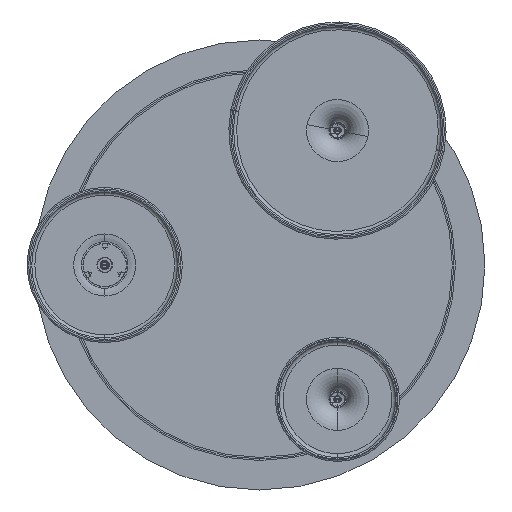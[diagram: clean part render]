
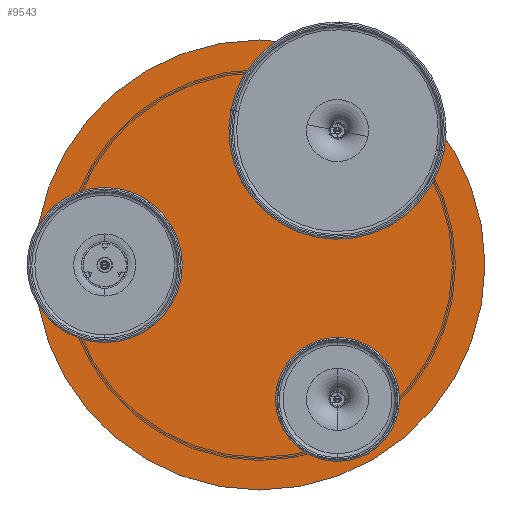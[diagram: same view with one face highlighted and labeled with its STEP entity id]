
A CAD part, front view. The second image highlights one B-rep face of the part: STEP entity #9543.
In plain terms, the highlighted planar face has unit normal (0, -1, 0).
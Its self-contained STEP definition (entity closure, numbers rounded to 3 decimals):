
#121 = CARTESIAN_POINT ( 'NONE',  ( 0., -1., 0. ) ) ;
#237 = EDGE_CURVE ( 'NONE', #617, #12573, #11047, .T. ) ;
#363 = EDGE_CURVE ( 'NONE', #12124, #2506, #7280, .T. ) ;
#413 = AXIS2_PLACEMENT_3D ( 'NONE', #567, #2937, #5152 ) ;
#567 = CARTESIAN_POINT ( 'NONE',  ( -50., -1., -86.603 ) ) ;
#587 = VERTEX_POINT ( 'NONE', #8285 ) ;
#608 = EDGE_CURVE ( 'NONE', #13075, #8973, #7631, .T. ) ;
#617 = VERTEX_POINT ( 'NONE', #6063 ) ;
#661 = CARTESIAN_POINT ( 'NONE',  ( 96.967, -1., 4.1 ) ) ;
#841 = ORIENTED_EDGE ( 'NONE', *, *, #4333, .F. ) ;
#1077 = DIRECTION ( 'NONE',  ( 0., 0., 1. ) ) ;
#1179 = CARTESIAN_POINT ( 'NONE',  ( -44.933, -1., 86.026 ) ) ;
#1218 = FACE_OUTER_BOUND ( 'NONE', #10899, .T. ) ;
#1371 = CIRCLE ( 'NONE', #5941, 145. ) ;
#1558 = DIRECTION ( 'NONE',  ( 0., 0., 1. ) ) ;
#1621 = CARTESIAN_POINT ( 'NONE',  ( -52.034, -1., 81.926 ) ) ;
#1914 = ORIENTED_EDGE ( 'NONE', *, *, #237, .F. ) ;
#1994 = CIRCLE ( 'NONE', #7678, 5.1 ) ;
#2210 = DIRECTION ( 'NONE',  ( 1., 0., 0. ) ) ;
#2230 = CARTESIAN_POINT ( 'NONE',  ( 0., -1., -145. ) ) ;
#2506 = VERTEX_POINT ( 'NONE', #661 ) ;
#2542 = ORIENTED_EDGE ( 'NONE', *, *, #6553, .F. ) ;
#2845 = ORIENTED_EDGE ( 'NONE', *, *, #3355, .F. ) ;
#2937 = DIRECTION ( 'NONE',  ( 0., -1., 0. ) ) ;
#3064 = CARTESIAN_POINT ( 'NONE',  ( -47.966, -1., 91.279 ) ) ;
#3117 = EDGE_CURVE ( 'NONE', #2506, #12169, #1994, .T. ) ;
#3149 = CARTESIAN_POINT ( 'NONE',  ( 0., -1., 0. ) ) ;
#3151 = CIRCLE ( 'NONE', #11368, 5.1 ) ;
#3237 = DIRECTION ( 'NONE',  ( 0.5, 0., 0.866 ) ) ;
#3329 = LINE ( 'NONE', #1179, #3989 ) ;
#3355 = EDGE_CURVE ( 'NONE', #11907, #7108, #13167, .T. ) ;
#3890 = AXIS2_PLACEMENT_3D ( 'NONE', #5706, #6852, #12445 ) ;
#3926 = CARTESIAN_POINT ( 'NONE',  ( 0., -1., 145. ) ) ;
#3931 = EDGE_CURVE ( 'NONE', #8250, #3950, #7960, .T. ) ;
#3950 = VERTEX_POINT ( 'NONE', #4008 ) ;
#3989 = VECTOR ( 'NONE', #7759, 1000. ) ;
#4008 = CARTESIAN_POINT ( 'NONE',  ( -52.034, -1., -81.926 ) ) ;
#4108 = ORIENTED_EDGE ( 'NONE', *, *, #4523, .F. ) ;
#4324 = EDGE_CURVE ( 'NONE', #4827, #13075, #8201, .T. ) ;
#4333 = EDGE_CURVE ( 'NONE', #3950, #617, #12487, .T. ) ;
#4334 = CIRCLE ( 'NONE', #3890, 5.1 ) ;
#4493 = LINE ( 'NONE', #12081, #8243 ) ;
#4503 = FACE_BOUND ( 'NONE', #13294, .T. ) ;
#4523 = EDGE_CURVE ( 'NONE', #587, #12124, #3151, .T. ) ;
#4549 = ORIENTED_EDGE ( 'NONE', *, *, #608, .F. ) ;
#4827 = VERTEX_POINT ( 'NONE', #8853 ) ;
#5152 = DIRECTION ( 'NONE',  ( -0.866, 0., 0.5 ) ) ;
#5305 = DIRECTION ( 'NONE',  ( 0., -1., 0. ) ) ;
#5383 = CARTESIAN_POINT ( 'NONE',  ( -50., -1., -86.603 ) ) ;
#5558 = VECTOR ( 'NONE', #9585, 1000. ) ;
#5569 = AXIS2_PLACEMENT_3D ( 'NONE', #11565, #5992, #8212 ) ;
#5577 = DIRECTION ( 'NONE',  ( 0., 1., 0. ) ) ;
#5644 = FACE_BOUND ( 'NONE', #11571, .T. ) ;
#5706 = CARTESIAN_POINT ( 'NONE',  ( -50., -1., 86.603 ) ) ;
#5887 = CARTESIAN_POINT ( 'NONE',  ( -47.966, -1., -91.279 ) ) ;
#5941 = AXIS2_PLACEMENT_3D ( 'NONE', #3149, #13155, #10869 ) ;
#5992 = DIRECTION ( 'NONE',  ( 0., -1., 0. ) ) ;
#6063 = CARTESIAN_POINT ( 'NONE',  ( -55.067, -1., -87.179 ) ) ;
#6332 = ORIENTED_EDGE ( 'NONE', *, *, #3931, .F. ) ;
#6437 = EDGE_CURVE ( 'NONE', #7108, #11907, #1371, .T. ) ;
#6496 = EDGE_CURVE ( 'NONE', #12169, #587, #4493, .T. ) ;
#6553 = EDGE_CURVE ( 'NONE', #8521, #4827, #4334, .T. ) ;
#6852 = DIRECTION ( 'NONE',  ( 0., -1., 0. ) ) ;
#7108 = VERTEX_POINT ( 'NONE', #3926 ) ;
#7280 = LINE ( 'NONE', #7351, #5558 ) ;
#7351 = CARTESIAN_POINT ( 'NONE',  ( 96.967, -1., 4.1 ) ) ;
#7574 = CARTESIAN_POINT ( 'NONE',  ( 103.033, -1., 4.1 ) ) ;
#7631 = CIRCLE ( 'NONE', #5569, 5.1 ) ;
#7678 = AXIS2_PLACEMENT_3D ( 'NONE', #10725, #9724, #11938 ) ;
#7691 = EDGE_CURVE ( 'NONE', #12573, #8250, #13039, .T. ) ;
#7759 = DIRECTION ( 'NONE',  ( -0.5, 0., 0.866 ) ) ;
#7960 = CIRCLE ( 'NONE', #413, 5.1 ) ;
#8160 = ORIENTED_EDGE ( 'NONE', *, *, #6496, .F. ) ;
#8201 = LINE ( 'NONE', #1621, #10239 ) ;
#8212 = DIRECTION ( 'NONE',  ( 0.866, 0., 0.5 ) ) ;
#8243 = VECTOR ( 'NONE', #2210, 1000. ) ;
#8250 = VERTEX_POINT ( 'NONE', #8488 ) ;
#8285 = CARTESIAN_POINT ( 'NONE',  ( 103.033, -1., -4.1 ) ) ;
#8386 = AXIS2_PLACEMENT_3D ( 'NONE', #121, #11355, #1558 ) ;
#8488 = CARTESIAN_POINT ( 'NONE',  ( -44.933, -1., -86.026 ) ) ;
#8521 = VERTEX_POINT ( 'NONE', #3064 ) ;
#8853 = CARTESIAN_POINT ( 'NONE',  ( -55.067, -1., 87.179 ) ) ;
#8874 = CARTESIAN_POINT ( 'NONE',  ( 0., -1., 0. ) ) ;
#8973 = VERTEX_POINT ( 'NONE', #14127 ) ;
#9319 = ORIENTED_EDGE ( 'NONE', *, *, #11480, .F. ) ;
#9543 = ADVANCED_FACE ( 'NONE', ( #5644, #4503, #13166, #1218 ), #12018, .F. ) ;
#9553 = VECTOR ( 'NONE', #10174, 1000. ) ;
#9585 = DIRECTION ( 'NONE',  ( -1., 0., 0. ) ) ;
#9677 = DIRECTION ( 'NONE',  ( 0., 0., -1. ) ) ;
#9724 = DIRECTION ( 'NONE',  ( 0., -1., 0. ) ) ;
#9797 = ORIENTED_EDGE ( 'NONE', *, *, #6437, .F. ) ;
#9921 = ORIENTED_EDGE ( 'NONE', *, *, #4324, .F. ) ;
#10174 = DIRECTION ( 'NONE',  ( -0.5, 0., -0.866 ) ) ;
#10239 = VECTOR ( 'NONE', #10477, 1000. ) ;
#10477 = DIRECTION ( 'NONE',  ( 0.5, 0., -0.866 ) ) ;
#10725 = CARTESIAN_POINT ( 'NONE',  ( 100., -1., 0. ) ) ;
#10823 = ORIENTED_EDGE ( 'NONE', *, *, #363, .F. ) ;
#10869 = DIRECTION ( 'NONE',  ( 0., 0., 1. ) ) ;
#10899 = EDGE_LOOP ( 'NONE', ( #9797, #2845 ) ) ;
#11047 = CIRCLE ( 'NONE', #13340, 5.1 ) ;
#11355 = DIRECTION ( 'NONE',  ( 0., 1., 0. ) ) ;
#11368 = AXIS2_PLACEMENT_3D ( 'NONE', #13035, #5305, #9677 ) ;
#11447 = ORIENTED_EDGE ( 'NONE', *, *, #7691, .F. ) ;
#11480 = EDGE_CURVE ( 'NONE', #8973, #8521, #3329, .T. ) ;
#11560 = CARTESIAN_POINT ( 'NONE',  ( -52.034, -1., -81.926 ) ) ;
#11565 = CARTESIAN_POINT ( 'NONE',  ( -50., -1., 86.603 ) ) ;
#11571 = EDGE_LOOP ( 'NONE', ( #11447, #1914, #841, #6332 ) ) ;
#11621 = DIRECTION ( 'NONE',  ( -0.866, 0., 0.5 ) ) ;
#11680 = ORIENTED_EDGE ( 'NONE', *, *, #3117, .F. ) ;
#11797 = EDGE_LOOP ( 'NONE', ( #10823, #4108, #8160, #11680 ) ) ;
#11907 = VERTEX_POINT ( 'NONE', #2230 ) ;
#11929 = AXIS2_PLACEMENT_3D ( 'NONE', #8874, #5577, #1077 ) ;
#11938 = DIRECTION ( 'NONE',  ( 0., 0., -1. ) ) ;
#12018 = PLANE ( 'NONE',  #11929 ) ;
#12081 = CARTESIAN_POINT ( 'NONE',  ( 96.967, -1., -4.1 ) ) ;
#12124 = VERTEX_POINT ( 'NONE', #7574 ) ;
#12169 = VERTEX_POINT ( 'NONE', #13018 ) ;
#12370 = VECTOR ( 'NONE', #3237, 1000. ) ;
#12445 = DIRECTION ( 'NONE',  ( 0.866, 0., 0.5 ) ) ;
#12460 = CARTESIAN_POINT ( 'NONE',  ( -52.034, -1., 81.926 ) ) ;
#12487 = LINE ( 'NONE', #11560, #9553 ) ;
#12573 = VERTEX_POINT ( 'NONE', #5887 ) ;
#12903 = CARTESIAN_POINT ( 'NONE',  ( -44.933, -1., -86.026 ) ) ;
#13018 = CARTESIAN_POINT ( 'NONE',  ( 96.967, -1., -4.1 ) ) ;
#13035 = CARTESIAN_POINT ( 'NONE',  ( 100., -1., 0. ) ) ;
#13039 = LINE ( 'NONE', #12903, #12370 ) ;
#13075 = VERTEX_POINT ( 'NONE', #12460 ) ;
#13155 = DIRECTION ( 'NONE',  ( 0., 1., 0. ) ) ;
#13166 = FACE_BOUND ( 'NONE', #11797, .T. ) ;
#13167 = CIRCLE ( 'NONE', #8386, 145. ) ;
#13294 = EDGE_LOOP ( 'NONE', ( #9921, #2542, #9319, #4549 ) ) ;
#13340 = AXIS2_PLACEMENT_3D ( 'NONE', #5383, #13989, #11621 ) ;
#13989 = DIRECTION ( 'NONE',  ( 0., -1., 0. ) ) ;
#14127 = CARTESIAN_POINT ( 'NONE',  ( -44.933, -1., 86.026 ) ) ;
